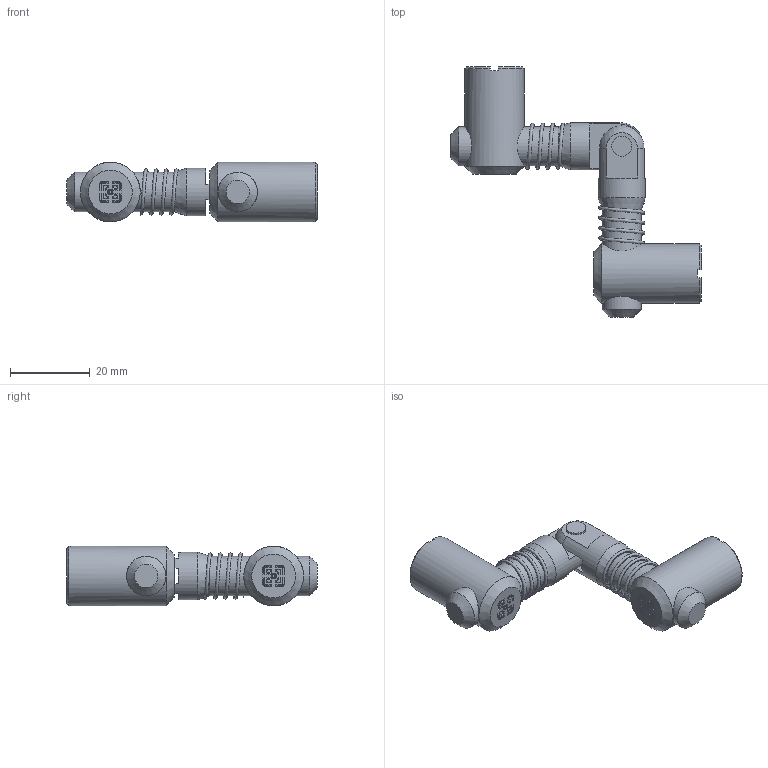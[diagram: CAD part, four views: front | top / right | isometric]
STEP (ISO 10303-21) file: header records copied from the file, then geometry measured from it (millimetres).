
FILE_DESCRIPTION(/* description */ ('Connessione snodata con giunzione foro frontale'),/* implementation_level */ '2;1');
FILE_NAME(/* name */ 'C:\omnitec\Desktop\Connessione PCE\PCE40-07.stp',/* time_stamp */ '2021-02-19T08:25:28+01:00',/* author */ ('omnitec'),/* organization */ ('Microsoft'),/* preprocessor_version */ 'ST-DEVELOPER v18.1',/* originating_system */ 'Autodesk Inventor 2021',/* authorisation */ '');
FILE_SCHEMA (('AUTOMOTIVE_DESIGN { 1 0 10303 214 3 1 1 }'));
Length unit declared in the file: millimetre
Products named in the file (1): PCE40-07
Bounding box: 63 x 63 x 15 mm (x, y, z)
Volume: 331 mm3; surface area: 8157.3 mm2
Topology: 3 solids, 9 shells, 256 faces, 776 edges, 523 vertices
Faces by surface type: plane 180, cone 60, cylinder 9, bspline 4, sphere 3
Full cylindrical faces by diameter (mm): 5 x1, 8.5 x2, 9.9 x2, 11.9 x2, 15 x2
Entity records: 13828 total; most frequent: CARTESIAN_POINT 6807, DIRECTION 1429, ORIENTED_EDGE 1401, EDGE_CURVE 774, LINE 539, VECTOR 539, VERTEX_POINT 523, AXIS2_PLACEMENT_3D 445
